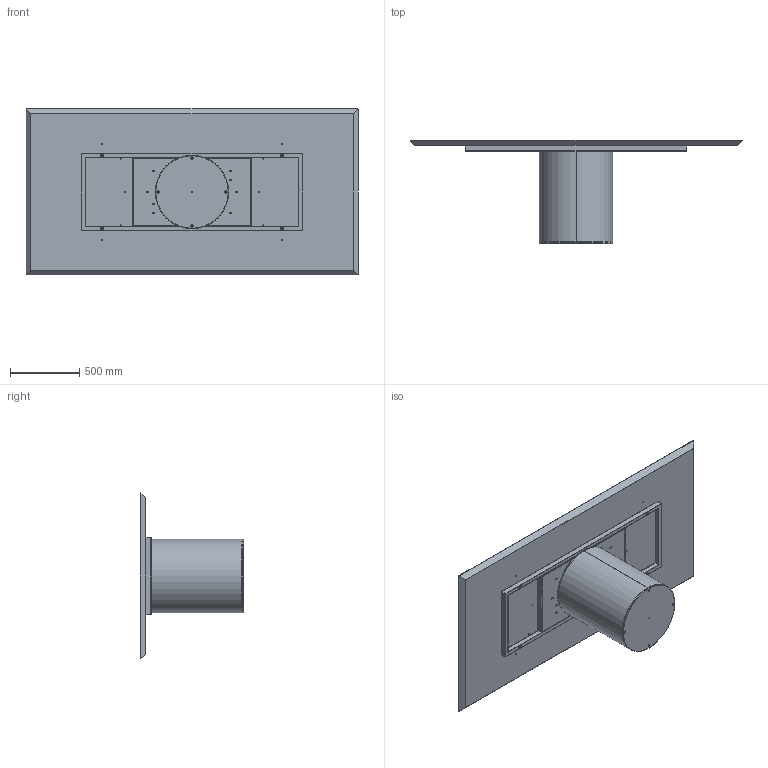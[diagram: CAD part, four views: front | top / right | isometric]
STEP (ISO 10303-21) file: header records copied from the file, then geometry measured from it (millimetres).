
FILE_DESCRIPTION (( 'STEP AP203' ), '1' );
FILE_NAME ('CI23W.STEP', '2024-08-08T07:23:58', ( '' ), ( '' ), 'SwSTEP 2.0', 'SolidWorks 2022', '' );
FILE_SCHEMA (( 'CONFIG_CONTROL_DESIGN' ));
Length unit declared in the file: millimetre
Products named in the file (12): CI23W; COLLO TELAIO UNIVERSALE TTAV01 CON FERRAMENTA_MTG TOP LEGNO-MARMO-KING; W2XCMXX-00-Piani Rettangolari in legno_2400 x 1200; TTAV01_01-05-TELAIO UNIVERSALE X TAVOLI 180 240cm; TTAV01-05-TELAIO UNIVERSALE X TAVOLI 180 240cm; rondella M8_8X24; C2B000000-03-CILINDRO BASE D.530mm_Normale; M8xXXmm_M8x55mm; TTAV01_02-05-VASSOIO IRRIGIDIMENTO TELAIO UNIVERSALE; M8xXXmm_hex_M8X20mm; C2B000000_01-00-struttura cilindro D.530mm; C2B000000_02-01-ZAVORRA IN FERRO D.530mm
Assembly tree (20 placements, depth 4):
  CI23W
    C2B000000-03-CILINDRO BASE D.530mm_Normale
      C2B000000_01-00-struttura cilindro D.530mm
      C2B000000_02-01-ZAVORRA IN FERRO D.530mm
      M8xXXmm_hex_M8X20mm  x4
    COLLO TELAIO UNIVERSALE TTAV01 CON FERRAMENTA_MTG TOP LEGNO-MARMO-KING
      TTAV01-05-TELAIO UNIVERSALE X TAVOLI 180 240cm
        TTAV01_02-05-VASSOIO IRRIGIDIMENTO TELAIO UNIVERSALE
        TTAV01_01-05-TELAIO UNIVERSALE X TAVOLI 180 240cm
      rondella M8_8X24  x4
      M8xXXmm_M8x55mm  x4
    W2XCMXX-00-Piani Rettangolari in legno_2400 x 1200
Bounding box: 2400 x 748 x 1200 mm (x, y, z)
Volume: 113732625.9 mm3; surface area: 10997721 mm2
Topology: 20 solids, 20 shells, 752 faces, 1774 edges, 1029 vertices
Faces by surface type: plane 300, cylinder 268, cone 106, torus 56, sphere 22
Entity records: 16535 total; most frequent: DIRECTION 2743, CARTESIAN_POINT 2634, ORIENTED_EDGE 2440, EDGE_CURVE 1220, AXIS2_PLACEMENT_3D 1027, VERTEX_POINT 752, LINE 689, VECTOR 689
